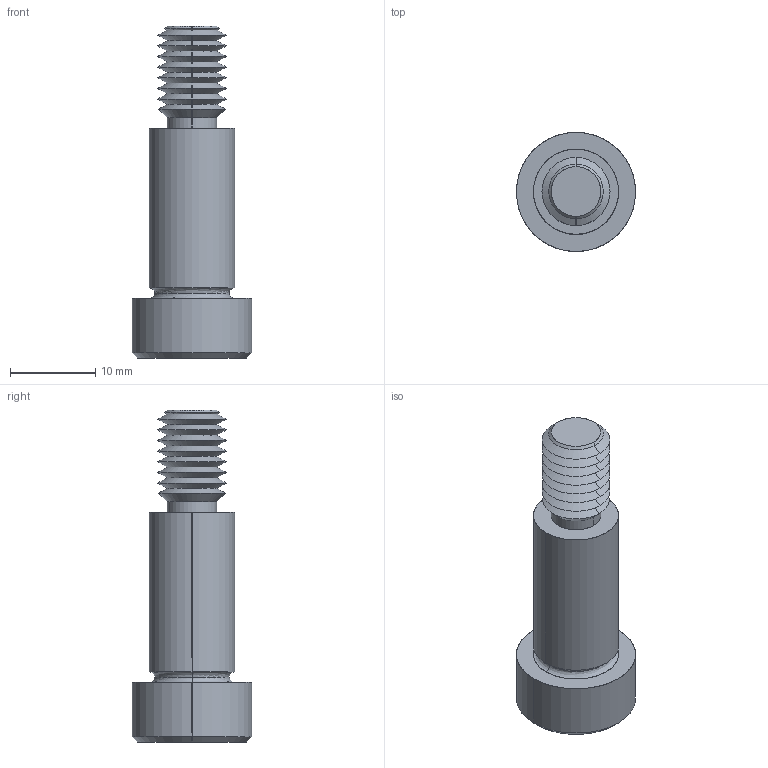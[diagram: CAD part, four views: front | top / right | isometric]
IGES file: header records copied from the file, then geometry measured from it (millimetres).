
Start section: SolidWorks IGES file using analytic representation for surfaces
Global section: file name: C:\Users\IanO\Documents\Temp Folder\GENERAL\SCREW REVISION\P0130_v2\P0130.T5_v2_20220106_IGES\P0130.100-020-T5.igs; native system: SolidWorks 2019; preprocessor: SolidWorks 2019; author: IanO; date: 220106.224206; units: millimetre
Bounding box: 14 x 14 x 39 mm (x, y, z)
Surface area: 1804.9 mm2 (no closed solid volume)
Topology: 0 solids, 0 shells, 72 faces, 548 edges, 546 vertices
Faces by surface type: revolution 52, bspline 20
